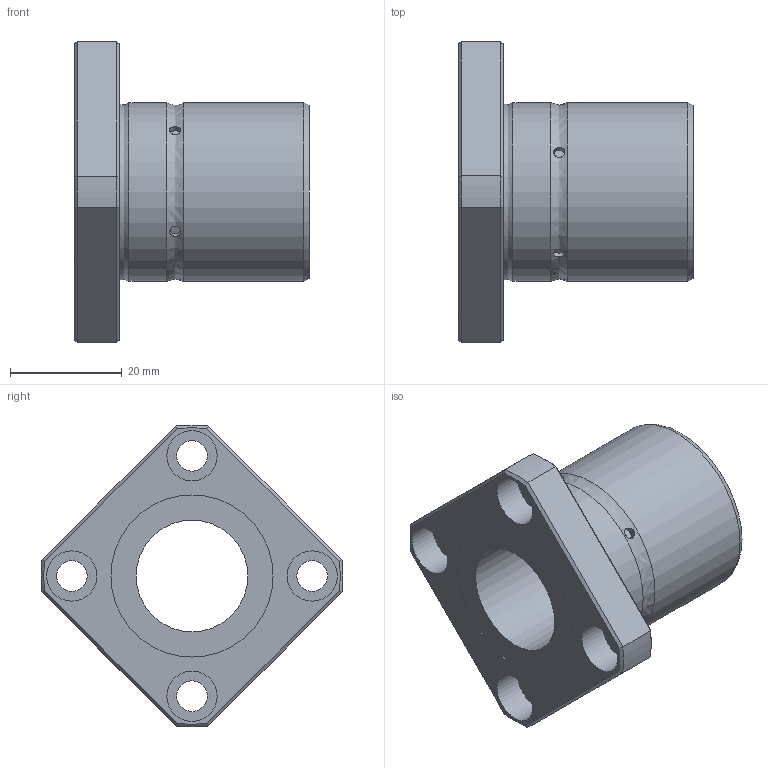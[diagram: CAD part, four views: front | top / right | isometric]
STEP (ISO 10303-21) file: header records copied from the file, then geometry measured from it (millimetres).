
FILE_DESCRIPTION((''),'2;1');
FILE_NAME('D:\製品 (図面)\カタログ用3D\リニアベアリング関連\STEP形式\LFK-OH\LFK20-OH.stp','2010-06-04T08:56:08',('Tsuchiya'),(''),'Autodesk Inventor 10','Autodesk Inventor 10','');
FILE_SCHEMA(('AUTOMOTIVE_DESIGN { 1 0 10303 214 1 1 1 1 }'));
Length unit declared in the file: millimetre
Products named in the file (1): LFK20-OH
Bounding box: 42 x 53.97 x 53.97 mm (x, y, z)
Volume: 26114.4 mm3; surface area: 10716.1 mm2
Topology: 1 solids, 1 shells, 59 faces, 120 edges, 75 vertices
Faces by surface type: cylinder 22, plane 21, cone 8, bspline 7, torus 1
Full cylindrical faces by diameter (mm): 5.5 x4, 9 x4, 20 x1, 29 x2, 32 x2
Entity records: 2067 total; most frequent: CARTESIAN_POINT 940, DIRECTION 218, ORIENTED_EDGE 188, EDGE_LOOP 102, AXIS2_PLACEMENT_3D 97, EDGE_CURVE 94, VERTEX_POINT 70, FACE_OUTER_BOUND 59
